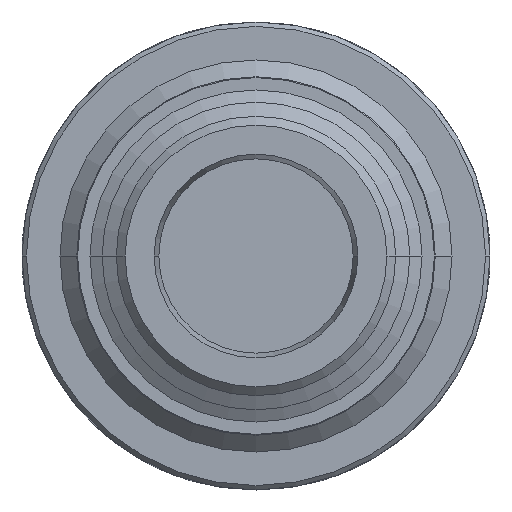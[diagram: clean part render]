
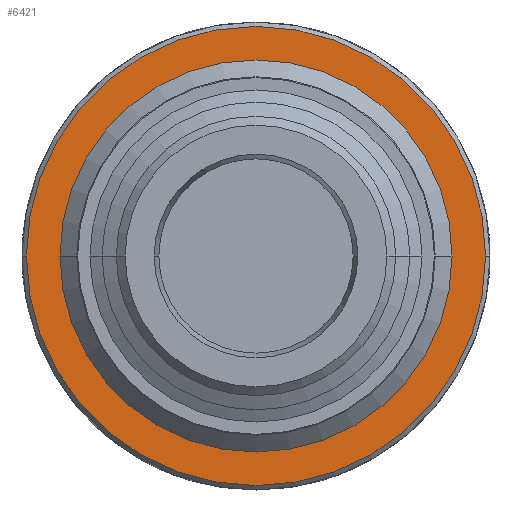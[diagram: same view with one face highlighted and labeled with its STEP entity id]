
A CAD part, front view. The second image highlights one B-rep face of the part: STEP entity #6421.
In plain terms, the highlighted planar face has unit normal (0, -1, 0).
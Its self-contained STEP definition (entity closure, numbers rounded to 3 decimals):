
#3263=CARTESIAN_POINT('',(0.,0.,0.));
#3264=DIRECTION('',(0.,-1.,0.));
#3265=DIRECTION('',(1.,0.,0.));
#3266=AXIS2_PLACEMENT_3D('',#3263,#3264,#3265);
#3271=CARTESIAN_POINT('',(0.,0.,0.));
#3272=DIRECTION('',(0.,1.,0.));
#3273=DIRECTION('',(1.,0.,0.));
#3274=AXIS2_PLACEMENT_3D('',#3271,#3272,#3273);
#3279=CARTESIAN_POINT('',(0.,0.,0.));
#3280=DIRECTION('',(0.,1.,0.));
#3281=DIRECTION('',(1.,0.,0.));
#3282=AXIS2_PLACEMENT_3D('',#3279,#3280,#3281);
#3294=CARTESIAN_POINT('',(0.,0.,0.));
#3295=DIRECTION('',(0.,-1.,0.));
#3296=DIRECTION('',(1.,0.,0.));
#3297=AXIS2_PLACEMENT_3D('',#3294,#3295,#3296);
#4834=CARTESIAN_POINT('',(9.925,0.,0.));
#4835=VERTEX_POINT('',#4834);
#4836=CARTESIAN_POINT('',(13.,0.,0.));
#4838=VERTEX_POINT('',#4836);
#4896=CARTESIAN_POINT('',(-9.925,0.,0.));
#4897=VERTEX_POINT('',#4896);
#4898=CARTESIAN_POINT('',(-13.,0.,0.));
#4900=VERTEX_POINT('',#4898);
#6406=CARTESIAN_POINT('',(0.,0.,0.));
#6407=DIRECTION('',(0.,1.,0.));
#6408=DIRECTION('',(1.,0.,0.));
#6409=AXIS2_PLACEMENT_3D('',#6406,#6407,#6408);
#6410=PLANE('',#6409);
#6412=ORIENTED_EDGE('',*,*,#6411,.T.);
#6414=ORIENTED_EDGE('',*,*,#6413,.F.);
#6415=EDGE_LOOP('',(#6412,#6414));
#6416=FACE_OUTER_BOUND('',#6415,.F.);
#6417=ORIENTED_EDGE('',*,*,#6388,.T.);
#6418=ORIENTED_EDGE('',*,*,#6399,.F.);
#6419=EDGE_LOOP('',(#6417,#6418));
#6420=FACE_BOUND('',#6419,.F.);
#3267=CIRCLE('',#3266,9.925);
#3275=CIRCLE('',#3274,9.925);
#3283=CIRCLE('',#3282,13.);
#3298=CIRCLE('',#3297,13.);
#6388=EDGE_CURVE('',#4835,#4897,#3267,.T.);
#6399=EDGE_CURVE('',#4835,#4897,#3275,.T.);
#6411=EDGE_CURVE('',#4838,#4900,#3283,.T.);
#6413=EDGE_CURVE('',#4838,#4900,#3298,.T.);
#6421=ADVANCED_FACE('',(#6416,#6420),#6410,.F.);
